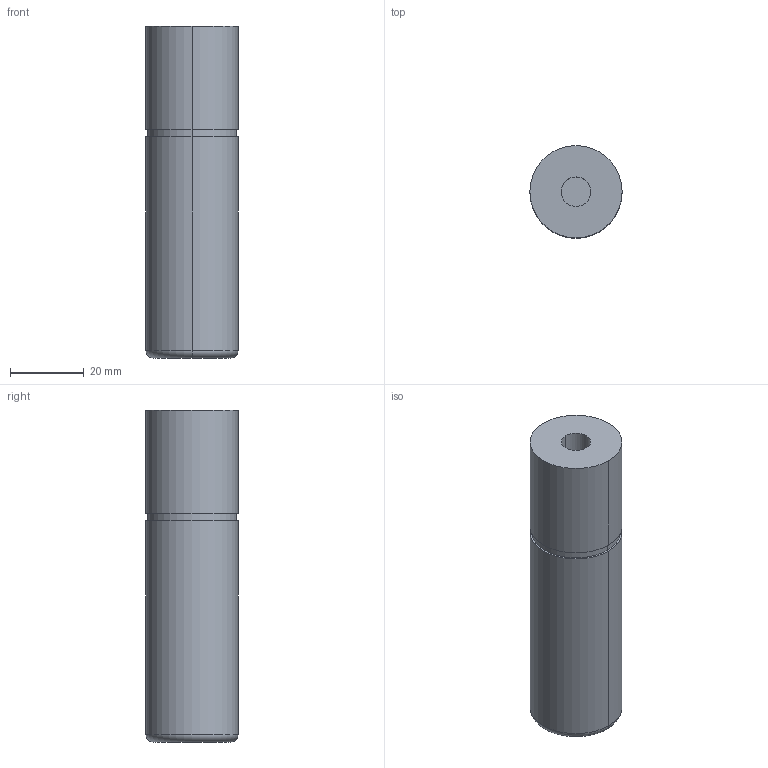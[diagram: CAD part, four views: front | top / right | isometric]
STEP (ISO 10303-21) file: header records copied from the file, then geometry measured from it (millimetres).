
FILE_DESCRIPTION(/* description */ (''),/* implementation_level */ '2;1');
FILE_NAME(/* name */ '3d_sgpn25-90_00284_r00.stp',/* time_stamp */ '2011-01-10T14:11:06+09:00',/* author */ ('MISUMI'),/* organization */ (''),/* preprocessor_version */ 'ST-DEVELOPER v11',/* originating_system */ 'UGS - NX 5.0',/* authorisation */ '');
FILE_SCHEMA (('CONFIG_CONTROL_DESIGN'));
Length unit declared in the file: millimetre
Products named in the file (1): 3d_sgpn25-90_00284_r00
Bounding box: 25 x 25 x 90 mm (x, y, z)
Volume: 43031.4 mm3; surface area: 8554.5 mm2
Topology: 1 solids, 1 shells, 15 faces, 28 edges, 18 vertices
Faces by surface type: cylinder 8, plane 5, torus 2
Entity records: 472 total; most frequent: DIRECTION 80, CARTESIAN_POINT 62, ORIENTED_EDGE 56, AXIS2_PLACEMENT_3D 36, EDGE_CURVE 28, CIRCLE 20, EDGE_LOOP 18, VERTEX_POINT 18
